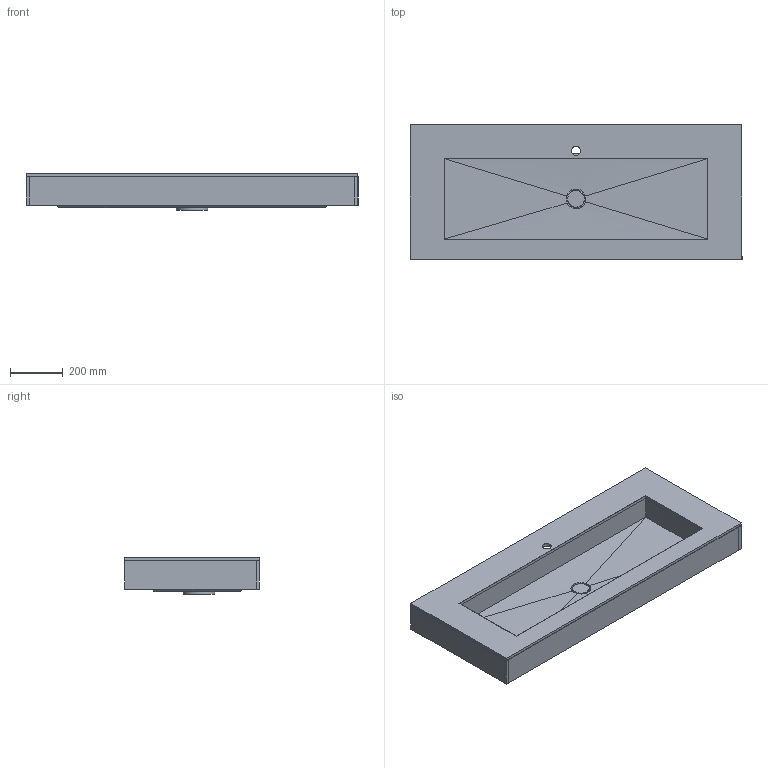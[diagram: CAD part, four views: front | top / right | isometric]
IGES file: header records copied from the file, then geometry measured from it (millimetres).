
Start section: Data from Parasolid IGES Translator 22.0.50, Copyright(c) 2006 Siemens P LM Software. All Rights Reserved.
Global section: file name: noorth-top-H 12 D 51,2 W 126_4370.igs; native system: By Siemens PLM Incorporated; preprocessor: XPlus GENERIC/IGES 22.0.50; author: Noname; organization: Noname; date: 20251109.140922; units: metre
Bounding box: 1260 x 512 x 139.29 mm (x, y, z)
Volume: 21981199.7 mm3; surface area: 2939291.4 mm2
Topology: 12 solids, 12 shells, 115 faces, 270 edges, 183 vertices
Faces by surface type: plane 97, cylinder 9, cone 5, bspline 4
Full cylindrical faces by diameter (mm): 34 x2, 34.697 x1, 45 x2, 65 x2, 75 x1, 120 x1
